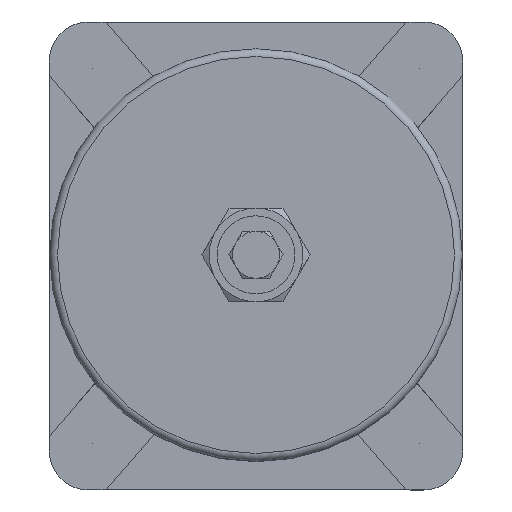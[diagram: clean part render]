
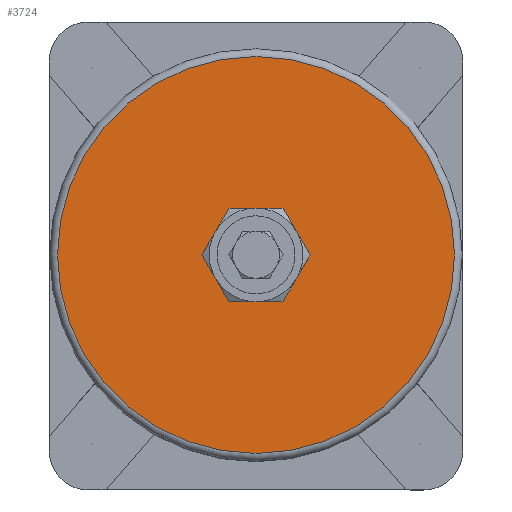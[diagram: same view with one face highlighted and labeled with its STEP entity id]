
A CAD part, top view. The second image highlights one B-rep face of the part: STEP entity #3724.
In plain terms, the highlighted planar face has unit normal (0, 0, 1).
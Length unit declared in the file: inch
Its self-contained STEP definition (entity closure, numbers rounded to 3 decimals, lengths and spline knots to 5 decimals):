
#164=FACE_BOUND('',#654,.T.);
#243=CIRCLE('',#3983,3.18109);
#246=CIRCLE('',#3988,0.4375);
#422=FACE_OUTER_BOUND('',#653,.T.);
#653=EDGE_LOOP('',(#2621));
#654=EDGE_LOOP('',(#2622));
#1551=VERTEX_POINT('',#5606);
#1554=VERTEX_POINT('',#5614);
#1951=EDGE_CURVE('',#1551,#1551,#243,.T.);
#1954=EDGE_CURVE('',#1554,#1554,#246,.T.);
#2621=ORIENTED_EDGE('',*,*,#1951,.F.);
#2622=ORIENTED_EDGE('',*,*,#1954,.T.);
#3341=PLANE('',#3987);
#3724=ADVANCED_FACE('',(#422,#164),#3341,.T.);
#3983=AXIS2_PLACEMENT_3D('',#5607,#4525,#4526);
#3987=AXIS2_PLACEMENT_3D('',#5613,#4533,#4534);
#3988=AXIS2_PLACEMENT_3D('',#5615,#4535,#4536);
#4525=DIRECTION('center_axis',(0.,0.,
-1.));
#4526=DIRECTION('ref_axis',(-1.,0.,0.));
#4533=DIRECTION('center_axis',(0.,0.,
1.));
#4534=DIRECTION('ref_axis',(1.,0.,0.));
#4535=DIRECTION('center_axis',(0.,0.,
-1.));
#4536=DIRECTION('ref_axis',(1.,0.,0.));
#5606=CARTESIAN_POINT('',(3.18109,0.,9.5));
#5607=CARTESIAN_POINT('Origin',(0.,0.,
9.5));
#5613=CARTESIAN_POINT('Origin',(1.875,0.,9.5));
#5614=CARTESIAN_POINT('',(0.4375,0.,9.5));
#5615=CARTESIAN_POINT('Origin',(0.,0.,
9.5));
